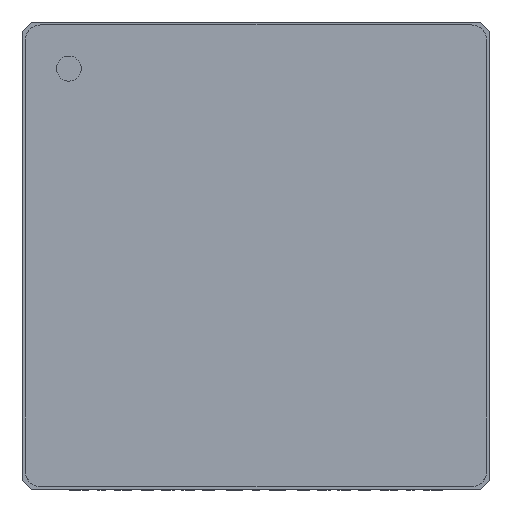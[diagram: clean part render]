
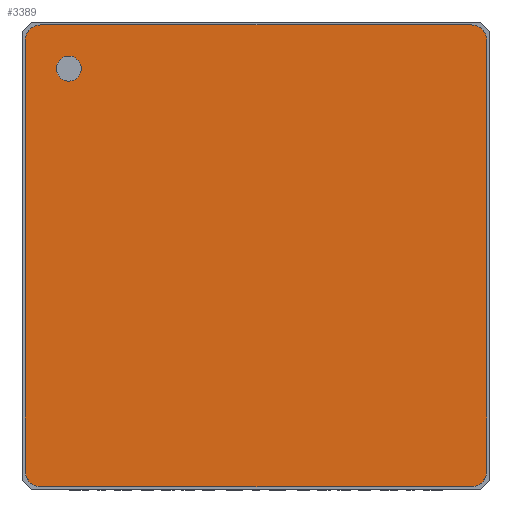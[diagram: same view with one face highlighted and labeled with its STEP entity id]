
A CAD part, top view. The second image highlights one B-rep face of the part: STEP entity #3389.
In plain terms, the highlighted planar face has unit normal (0, 0, 1).
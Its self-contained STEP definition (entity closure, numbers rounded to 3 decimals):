
#200 = AXIS2_PLACEMENT_3D ( 'NONE', #6200, #8076, #4181 ) ;
#247 = EDGE_CURVE ( 'NONE', #2706, #12007, #8527, .T. ) ;
#270 = LINE ( 'NONE', #2009, #9637 ) ;
#430 = CARTESIAN_POINT ( 'NONE',  ( 5.614, 15.121, 4. ) ) ;
#677 = CARTESIAN_POINT ( 'NONE',  ( 5.114, 28.921, 4. ) ) ;
#806 = DIRECTION ( 'NONE',  ( 0., 0., 1. ) ) ;
#941 = CARTESIAN_POINT ( 'NONE',  ( 19.414, 15.121, 4. ) ) ;
#943 = DIRECTION ( 'NONE',  ( 0., -1., 0. ) ) ;
#1110 = CARTESIAN_POINT ( 'NONE',  ( 19.414, 14.621, 4. ) ) ;
#1119 = ORIENTED_EDGE ( 'NONE', *, *, #4028, .T. ) ;
#1598 = ORIENTED_EDGE ( 'NONE', *, *, #4275, .T. ) ;
#1965 = DIRECTION ( 'NONE',  ( -1., 0., 0. ) ) ;
#2009 = CARTESIAN_POINT ( 'NONE',  ( 5.114, 15.121, 4. ) ) ;
#2205 = EDGE_CURVE ( 'NONE', #8045, #8443, #11041, .T. ) ;
#2363 = ORIENTED_EDGE ( 'NONE', *, *, #5637, .T. ) ;
#2553 = PLANE ( 'NONE',  #4128 ) ;
#2706 = VERTEX_POINT ( 'NONE', #11266 ) ;
#3222 = DIRECTION ( 'NONE',  ( 0., 0., 1. ) ) ;
#3352 = VERTEX_POINT ( 'NONE', #677 ) ;
#3389 = ADVANCED_FACE ( 'NONE', ( #3927, #9784 ), #2553, .F. ) ;
#3457 = EDGE_LOOP ( 'NONE', ( #8829, #10324 ) ) ;
#3479 = AXIS2_PLACEMENT_3D ( 'NONE', #10625, #3222, #9690 ) ;
#3556 = DIRECTION ( 'NONE',  ( 0., 0., -1. ) ) ;
#3674 = CARTESIAN_POINT ( 'NONE',  ( 5.614, 29.421, 4. ) ) ;
#3927 = FACE_BOUND ( 'NONE', #3457, .T. ) ;
#4028 = EDGE_CURVE ( 'NONE', #12069, #3352, #8583, .T. ) ;
#4059 = CARTESIAN_POINT ( 'NONE',  ( 6.914, 28.021, 4. ) ) ;
#4083 = CIRCLE ( 'NONE', #7949, 0.5 ) ;
#4092 = CIRCLE ( 'NONE', #3479, 0.4 ) ;
#4128 = AXIS2_PLACEMENT_3D ( 'NONE', #7516, #3556, #6302 ) ;
#4172 = DIRECTION ( 'NONE',  ( 0., 1., 0. ) ) ;
#4181 = DIRECTION ( 'NONE',  ( 1., 0., 0. ) ) ;
#4275 = EDGE_CURVE ( 'NONE', #8443, #9379, #9919, .T. ) ;
#4293 = CARTESIAN_POINT ( 'NONE',  ( 6.114, 28.021, 4. ) ) ;
#4306 = VECTOR ( 'NONE', #11269, 1000. ) ;
#4871 = AXIS2_PLACEMENT_3D ( 'NONE', #9372, #806, #7400 ) ;
#4960 = DIRECTION ( 'NONE',  ( 0., 0., 1. ) ) ;
#5262 = ORIENTED_EDGE ( 'NONE', *, *, #9710, .T. ) ;
#5637 = EDGE_CURVE ( 'NONE', #12007, #12069, #9738, .T. ) ;
#5766 = ORIENTED_EDGE ( 'NONE', *, *, #8518, .T. ) ;
#5843 = ORIENTED_EDGE ( 'NONE', *, *, #247, .T. ) ;
#5935 = CARTESIAN_POINT ( 'NONE',  ( 5.614, 28.921, 4. ) ) ;
#6123 = EDGE_LOOP ( 'NONE', ( #1119, #12016, #5262, #7823, #1598, #5766, #5843, #2363 ) ) ;
#6200 = CARTESIAN_POINT ( 'NONE',  ( 6.514, 28.021, 4. ) ) ;
#6302 = DIRECTION ( 'NONE',  ( -1., 0., 0. ) ) ;
#6441 = CARTESIAN_POINT ( 'NONE',  ( 5.614, 29.421, 4. ) ) ;
#6914 = CARTESIAN_POINT ( 'NONE',  ( 5.114, 15.121, 4. ) ) ;
#7182 = CARTESIAN_POINT ( 'NONE',  ( 5.614, 14.621, 4. ) ) ;
#7400 = DIRECTION ( 'NONE',  ( -1., 0., 0. ) ) ;
#7516 = CARTESIAN_POINT ( 'NONE',  ( 5.614, 28.921, 4. ) ) ;
#7579 = DIRECTION ( 'NONE',  ( 0., 0., 1. ) ) ;
#7823 = ORIENTED_EDGE ( 'NONE', *, *, #2205, .T. ) ;
#7846 = CARTESIAN_POINT ( 'NONE',  ( 19.414, 14.621, 4. ) ) ;
#7949 = AXIS2_PLACEMENT_3D ( 'NONE', #430, #4960, #10610 ) ;
#8045 = VERTEX_POINT ( 'NONE', #7182 ) ;
#8076 = DIRECTION ( 'NONE',  ( 0., 0., 1. ) ) ;
#8443 = VERTEX_POINT ( 'NONE', #1110 ) ;
#8518 = EDGE_CURVE ( 'NONE', #9379, #2706, #11922, .T. ) ;
#8527 = CIRCLE ( 'NONE', #4871, 0.5 ) ;
#8583 = CIRCLE ( 'NONE', #11865, 0.5 ) ;
#8772 = DIRECTION ( 'NONE',  ( 1., 0., 0. ) ) ;
#8829 = ORIENTED_EDGE ( 'NONE', *, *, #11450, .F. ) ;
#8950 = CARTESIAN_POINT ( 'NONE',  ( 19.914, 28.921, 4. ) ) ;
#9013 = EDGE_CURVE ( 'NONE', #9847, #10210, #4092, .T. ) ;
#9039 = CARTESIAN_POINT ( 'NONE',  ( 19.414, 29.421, 4. ) ) ;
#9087 = VECTOR ( 'NONE', #4172, 1000. ) ;
#9372 = CARTESIAN_POINT ( 'NONE',  ( 19.414, 28.921, 4. ) ) ;
#9379 = VERTEX_POINT ( 'NONE', #10202 ) ;
#9637 = VECTOR ( 'NONE', #943, 1000. ) ;
#9690 = DIRECTION ( 'NONE',  ( 1., 0., 0. ) ) ;
#9709 = AXIS2_PLACEMENT_3D ( 'NONE', #941, #7579, #1965 ) ;
#9710 = EDGE_CURVE ( 'NONE', #10857, #8045, #4083, .T. ) ;
#9738 = LINE ( 'NONE', #3674, #4306 ) ;
#9784 = FACE_OUTER_BOUND ( 'NONE', #6123, .T. ) ;
#9821 = VECTOR ( 'NONE', #8772, 1000. ) ;
#9847 = VERTEX_POINT ( 'NONE', #4293 ) ;
#9919 = CIRCLE ( 'NONE', #9709, 0.5 ) ;
#10123 = EDGE_CURVE ( 'NONE', #3352, #10857, #270, .T. ) ;
#10202 = CARTESIAN_POINT ( 'NONE',  ( 19.914, 15.121, 4. ) ) ;
#10204 = CIRCLE ( 'NONE', #200, 0.4 ) ;
#10210 = VERTEX_POINT ( 'NONE', #4059 ) ;
#10324 = ORIENTED_EDGE ( 'NONE', *, *, #9013, .F. ) ;
#10466 = DIRECTION ( 'NONE',  ( 0., 0., 1. ) ) ;
#10610 = DIRECTION ( 'NONE',  ( -1., 0., 0. ) ) ;
#10625 = CARTESIAN_POINT ( 'NONE',  ( 6.514, 28.021, 4. ) ) ;
#10629 = DIRECTION ( 'NONE',  ( -1., 0., 0. ) ) ;
#10857 = VERTEX_POINT ( 'NONE', #6914 ) ;
#11041 = LINE ( 'NONE', #7846, #9821 ) ;
#11266 = CARTESIAN_POINT ( 'NONE',  ( 19.914, 28.921, 4. ) ) ;
#11269 = DIRECTION ( 'NONE',  ( -1., 0., 0. ) ) ;
#11450 = EDGE_CURVE ( 'NONE', #10210, #9847, #10204, .T. ) ;
#11865 = AXIS2_PLACEMENT_3D ( 'NONE', #5935, #10466, #10629 ) ;
#11922 = LINE ( 'NONE', #8950, #9087 ) ;
#12007 = VERTEX_POINT ( 'NONE', #9039 ) ;
#12016 = ORIENTED_EDGE ( 'NONE', *, *, #10123, .T. ) ;
#12069 = VERTEX_POINT ( 'NONE', #6441 ) ;
